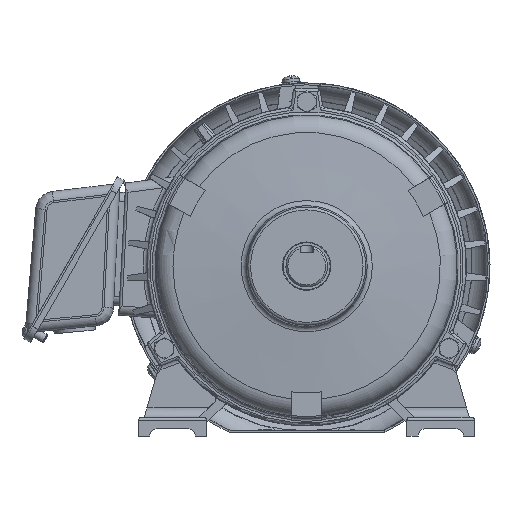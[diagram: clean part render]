
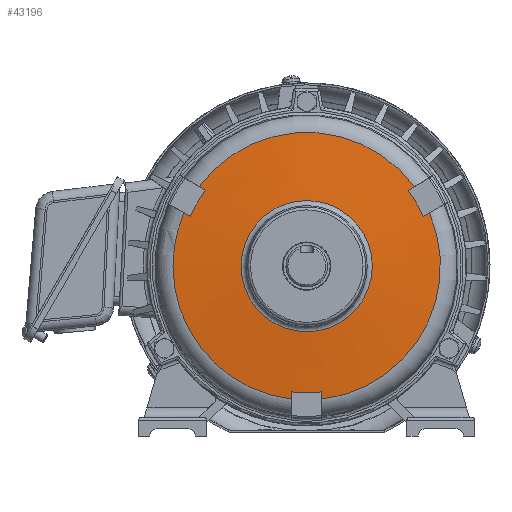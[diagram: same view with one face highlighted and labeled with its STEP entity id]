
A CAD part, front view. The second image highlights one B-rep face of the part: STEP entity #43196.
In plain terms, the highlighted conical face has half-angle 85.03 degrees and reference radius 78.5 mm.
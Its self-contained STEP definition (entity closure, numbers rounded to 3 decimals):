
#795=CONICAL_SURFACE('',#46001,78.5,1.484);
#1310=B_SPLINE_CURVE_WITH_KNOTS('',3,(#65005,#65006,#65007,#65008),
 .UNSPECIFIED.,.F.,.F.,(4,4),(0.,1.),.PIECEWISE_BEZIER_KNOTS.);
#1311=B_SPLINE_CURVE_WITH_KNOTS('',3,(#65013,#65014,#65015,#65016),
 .UNSPECIFIED.,.F.,.F.,(4,4),(0.,1.),.PIECEWISE_BEZIER_KNOTS.);
#1312=B_SPLINE_CURVE_WITH_KNOTS('',3,(#65020,#65021,#65022,#65023),
 .UNSPECIFIED.,.F.,.F.,(4,4),(0.,1.),.PIECEWISE_BEZIER_KNOTS.);
#1313=B_SPLINE_CURVE_WITH_KNOTS('',3,(#65027,#65028,#65029,#65030),
 .UNSPECIFIED.,.F.,.F.,(4,4),(0.,1.),.PIECEWISE_BEZIER_KNOTS.);
#1314=B_SPLINE_CURVE_WITH_KNOTS('',3,(#65034,#65035,#65036,#65037),
 .UNSPECIFIED.,.F.,.F.,(4,4),(0.,1.),.PIECEWISE_BEZIER_KNOTS.);
#1315=B_SPLINE_CURVE_WITH_KNOTS('',3,(#65041,#65042,#65043,#65044),
 .UNSPECIFIED.,.F.,.F.,(4,4),(0.,1.),.PIECEWISE_BEZIER_KNOTS.);
#9988=ORIENTED_EDGE('',*,*,#21360,.T.);
#9989=ORIENTED_EDGE('',*,*,#21361,.F.);
#9990=ORIENTED_EDGE('',*,*,#21362,.T.);
#9991=ORIENTED_EDGE('',*,*,#21363,.F.);
#9992=ORIENTED_EDGE('',*,*,#21364,.F.);
#9993=ORIENTED_EDGE('',*,*,#21365,.F.);
#9994=ORIENTED_EDGE('',*,*,#21366,.T.);
#9995=ORIENTED_EDGE('',*,*,#21367,.F.);
#9996=ORIENTED_EDGE('',*,*,#21368,.F.);
#9997=ORIENTED_EDGE('',*,*,#21369,.F.);
#9998=ORIENTED_EDGE('',*,*,#21370,.T.);
#9999=ORIENTED_EDGE('',*,*,#21371,.F.);
#10000=ORIENTED_EDGE('',*,*,#21372,.F.);
#21360=EDGE_CURVE('',#27195,#27195,#30915,.T.);
#21361=EDGE_CURVE('',#27196,#27197,#1310,.T.);
#21362=EDGE_CURVE('',#27196,#27198,#30916,.T.);
#21363=EDGE_CURVE('',#27199,#27198,#1311,.T.);
#21364=EDGE_CURVE('',#27200,#27199,#30917,.T.);
#21365=EDGE_CURVE('',#27201,#27200,#1312,.T.);
#21366=EDGE_CURVE('',#27201,#27202,#30918,.T.);
#21367=EDGE_CURVE('',#27203,#27202,#1313,.T.);
#21368=EDGE_CURVE('',#27204,#27203,#30919,.T.);
#21369=EDGE_CURVE('',#27205,#27204,#1314,.T.);
#21370=EDGE_CURVE('',#27205,#27206,#30920,.T.);
#21371=EDGE_CURVE('',#27207,#27206,#1315,.T.);
#21372=EDGE_CURVE('',#27197,#27207,#30921,.T.);
#27195=VERTEX_POINT('',#65004);
#27196=VERTEX_POINT('',#65009);
#27197=VERTEX_POINT('',#65010);
#27198=VERTEX_POINT('',#65012);
#27199=VERTEX_POINT('',#65017);
#27200=VERTEX_POINT('',#65019);
#27201=VERTEX_POINT('',#65024);
#27202=VERTEX_POINT('',#65026);
#27203=VERTEX_POINT('',#65031);
#27204=VERTEX_POINT('',#65033);
#27205=VERTEX_POINT('',#65038);
#27206=VERTEX_POINT('',#65040);
#27207=VERTEX_POINT('',#65045);
#30915=CIRCLE('',#46002,34.709);
#30916=CIRCLE('',#46003,70.777);
#30917=CIRCLE('',#46004,67.);
#30918=CIRCLE('',#46005,70.777);
#30919=CIRCLE('',#46006,67.);
#30920=CIRCLE('',#46007,70.777);
#30921=CIRCLE('',#46008,67.);
#33082=EDGE_LOOP('',(#9988));
#33083=EDGE_LOOP('',(#9989,#9990,#9991,#9992,#9993,#9994,#9995,#9996,#9997,
#9998,#9999,#10000));
#35971=FACE_BOUND('',#33082,.T.);
#35972=FACE_BOUND('',#33083,.T.);
#43196=ADVANCED_FACE('',(#35971,#35972),#795,.T.);
#46001=AXIS2_PLACEMENT_3D('',#65002,#51174,#51175);
#46002=AXIS2_PLACEMENT_3D('',#65003,#51176,#51177);
#46003=AXIS2_PLACEMENT_3D('',#65011,#51178,#51179);
#46004=AXIS2_PLACEMENT_3D('',#65018,#51180,#51181);
#46005=AXIS2_PLACEMENT_3D('',#65025,#51182,#51183);
#46006=AXIS2_PLACEMENT_3D('',#65032,#51184,#51185);
#46007=AXIS2_PLACEMENT_3D('',#65039,#51186,#51187);
#46008=AXIS2_PLACEMENT_3D('',#65046,#51188,#51189);
#51174=DIRECTION('',(0.,1.,0.));
#51175=DIRECTION('',(-1.,0.,0.));
#51176=DIRECTION('',(0.,1.,0.));
#51177=DIRECTION('',(-1.,0.,0.));
#51178=DIRECTION('',(0.,-1.,0.));
#51179=DIRECTION('',(1.,0.,0.));
#51180=DIRECTION('',(0.,1.,0.));
#51181=DIRECTION('',(-1.,0.,0.));
#51182=DIRECTION('',(0.,-1.,0.));
#51183=DIRECTION('',(1.,0.,0.));
#51184=DIRECTION('',(0.,1.,0.));
#51185=DIRECTION('',(-1.,0.,0.));
#51186=DIRECTION('',(0.,-1.,0.));
#51187=DIRECTION('',(1.,0.,0.));
#51188=DIRECTION('',(0.,1.,0.));
#51189=DIRECTION('',(-1.,0.,0.));
#65002=CARTESIAN_POINT('',(0.,11.,0.));
#65003=CARTESIAN_POINT('',(0.,7.192,0.));
#65004=CARTESIAN_POINT('',(-34.709,7.192,0.));
#65005=CARTESIAN_POINT('',(8.,10.328,-70.323));
#65006=CARTESIAN_POINT('',(8.,10.219,-69.056));
#65007=CARTESIAN_POINT('',(8.,10.109,-67.788));
#65008=CARTESIAN_POINT('',(8.,10.,-66.521));
#65009=CARTESIAN_POINT('',(8.,10.328,-70.323));
#65010=CARTESIAN_POINT('',(8.,10.,-66.521));
#65011=CARTESIAN_POINT('',(0.,10.328,0.));
#65012=CARTESIAN_POINT('',(64.902,10.328,28.233));
#65013=CARTESIAN_POINT('',(61.609,10.,26.332));
#65014=CARTESIAN_POINT('',(62.706,10.109,26.966));
#65015=CARTESIAN_POINT('',(63.804,10.219,27.6));
#65016=CARTESIAN_POINT('',(64.902,10.328,28.233));
#65017=CARTESIAN_POINT('',(61.609,10.,26.332));
#65018=CARTESIAN_POINT('',(0.,10.,0.));
#65019=CARTESIAN_POINT('',(53.609,10.,40.189));
#65020=CARTESIAN_POINT('',(56.902,10.328,42.09));
#65021=CARTESIAN_POINT('',(55.804,10.219,41.456));
#65022=CARTESIAN_POINT('',(54.706,10.109,40.822));
#65023=CARTESIAN_POINT('',(53.609,10.,40.189));
#65024=CARTESIAN_POINT('',(56.902,10.328,42.09));
#65025=CARTESIAN_POINT('',(0.,10.328,0.));
#65026=CARTESIAN_POINT('',(-56.902,10.328,42.09));
#65027=CARTESIAN_POINT('',(-53.609,10.,40.189));
#65028=CARTESIAN_POINT('',(-54.706,10.109,40.822));
#65029=CARTESIAN_POINT('',(-55.804,10.219,41.456));
#65030=CARTESIAN_POINT('',(-56.902,10.328,42.09));
#65031=CARTESIAN_POINT('',(-53.609,10.,40.189));
#65032=CARTESIAN_POINT('',(0.,10.,0.));
#65033=CARTESIAN_POINT('',(-61.609,10.,26.332));
#65034=CARTESIAN_POINT('',(-64.902,10.328,28.233));
#65035=CARTESIAN_POINT('',(-63.804,10.219,27.6));
#65036=CARTESIAN_POINT('',(-62.706,10.109,26.966));
#65037=CARTESIAN_POINT('',(-61.609,10.,26.332));
#65038=CARTESIAN_POINT('',(-64.902,10.328,28.233));
#65039=CARTESIAN_POINT('',(0.,10.328,0.));
#65040=CARTESIAN_POINT('',(-8.,10.328,-70.323));
#65041=CARTESIAN_POINT('',(-8.,10.,-66.521));
#65042=CARTESIAN_POINT('',(-8.,10.109,-67.788));
#65043=CARTESIAN_POINT('',(-8.,10.219,-69.056));
#65044=CARTESIAN_POINT('',(-8.,10.328,-70.323));
#65045=CARTESIAN_POINT('',(-8.,10.,-66.521));
#65046=CARTESIAN_POINT('',(0.,10.,0.));
